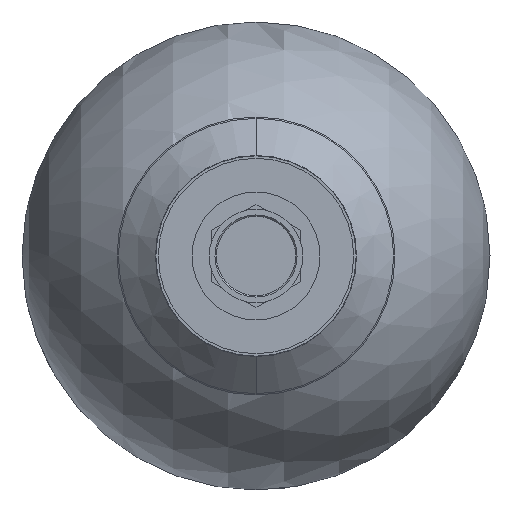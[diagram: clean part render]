
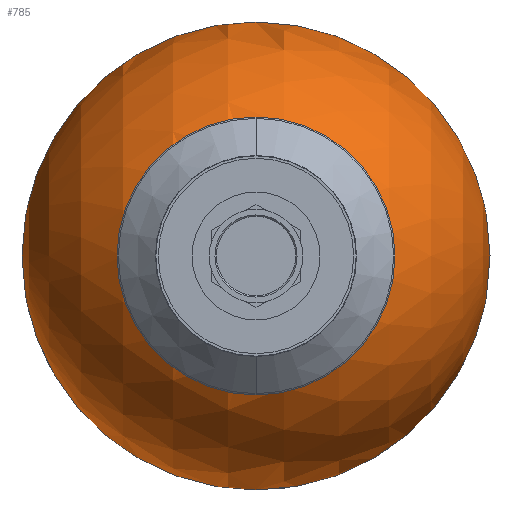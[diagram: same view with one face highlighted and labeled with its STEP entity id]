
A CAD part, front view. The second image highlights one B-rep face of the part: STEP entity #785.
In plain terms, the highlighted spherical face has radius 84.15 mm.
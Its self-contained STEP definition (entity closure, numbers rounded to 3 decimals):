
#245=CARTESIAN_POINT('',(-140.659,63.5,0.0));
#246=VERTEX_POINT('',#245);
#271=CARTESIAN_POINT('',(-140.659,-104.8,0.));
#272=VERTEX_POINT('',#271);
#279=CARTESIAN_POINT('',(-140.659,-20.65,0.0));
#280=DIRECTION('',(1.0,0.0,0.0));
#281=DIRECTION('',(0.0,1.0,0.0));
#282=AXIS2_PLACEMENT_3D('',#279,#280,#281);
#283=CIRCLE('',#282,84.15);
#284=EDGE_CURVE('',#272,#246,#283,.T.);
#632=CARTESIAN_POINT('',(-140.659,-20.65,0.0));
#633=DIRECTION('',(1.0,0.0,0.0));
#634=DIRECTION('',(0.0,1.0,0.0));
#635=AXIS2_PLACEMENT_3D('',#632,#633,#634);
#636=CIRCLE('',#635,84.15);
#637=EDGE_CURVE('',#246,#272,#636,.T.);
#757=CARTESIAN_POINT('',(-221.605,2.35,0.0));
#758=VERTEX_POINT('',#757);
#759=CARTESIAN_POINT('',(-221.605,-20.65,0.0));
#760=DIRECTION('',(1.0,0.0,0.0));
#761=DIRECTION('',(0.0,1.0,0.0));
#762=AXIS2_PLACEMENT_3D('',#759,#760,#761);
#763=CIRCLE('',#762,23.);
#764=EDGE_CURVE('',#758,#758,#763,.T.);
#773=CARTESIAN_POINT('',(-140.659,-20.65,0.0));
#774=DIRECTION('',(0.0,0.0,1.0));
#775=DIRECTION('',(1.0,0.0,0.0));
#776=AXIS2_PLACEMENT_3D('',#773,#774,#775);
#777=SPHERICAL_SURFACE('',#776,84.15);
#778=ORIENTED_EDGE('',*,*,#284,.F.);
#779=ORIENTED_EDGE('',*,*,#637,.F.);
#780=EDGE_LOOP('',(#778,#779));
#781=FACE_OUTER_BOUND('',#780,.T.);
#782=ORIENTED_EDGE('',*,*,#764,.T.);
#783=EDGE_LOOP('',(#782));
#784=FACE_BOUND('',#783,.T.);
#785=ADVANCED_FACE('',(#781,#784),#777,.T.);
